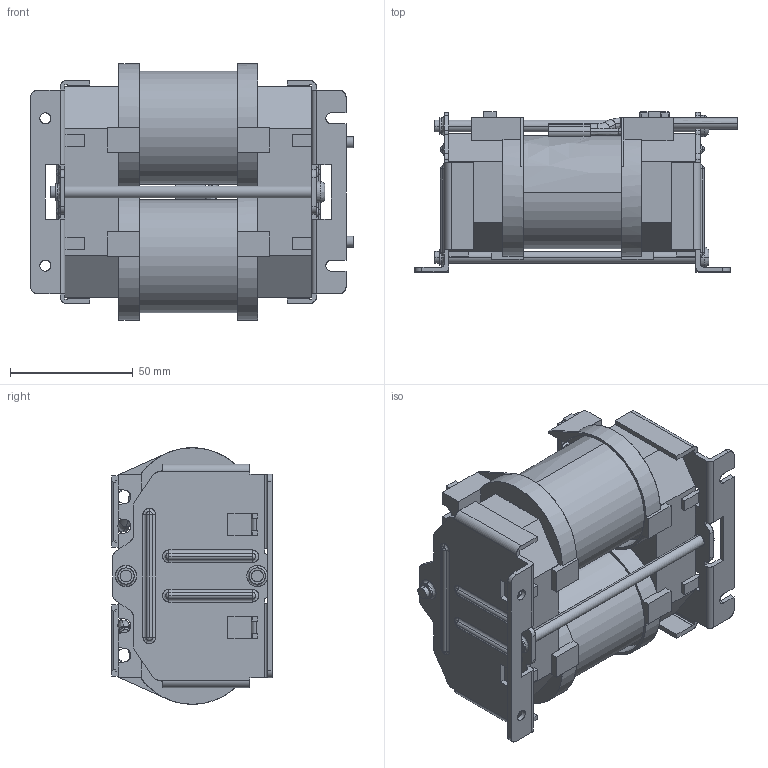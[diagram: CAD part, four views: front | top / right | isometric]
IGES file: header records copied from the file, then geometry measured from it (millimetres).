
Start section: SolidWorks IGES file using analytic representation for surfaces
Global section: file name: \\10.106.230.1\r&d file\05_COMP\02_Mechanical\10_Others\PV_RT 81\网络用3D模型\卧式模型\网络用模型\SP11225B-GH00SS20R(H-5KW_DCL-G).IGS,15HSolidWorks; native system: 2009; preprocessor: SolidWorks 2009; author: test; date: 120508.153425; units: millimetre
Bounding box: 131.5 x 65.25 x 104.5 mm (x, y, z)
Surface area: 114283.4 mm2 (no closed solid volume)
Topology: 0 solids, 0 shells, 801 faces, 9483 edges, 9460 vertices
Faces by surface type: bspline 513, revolution 288
